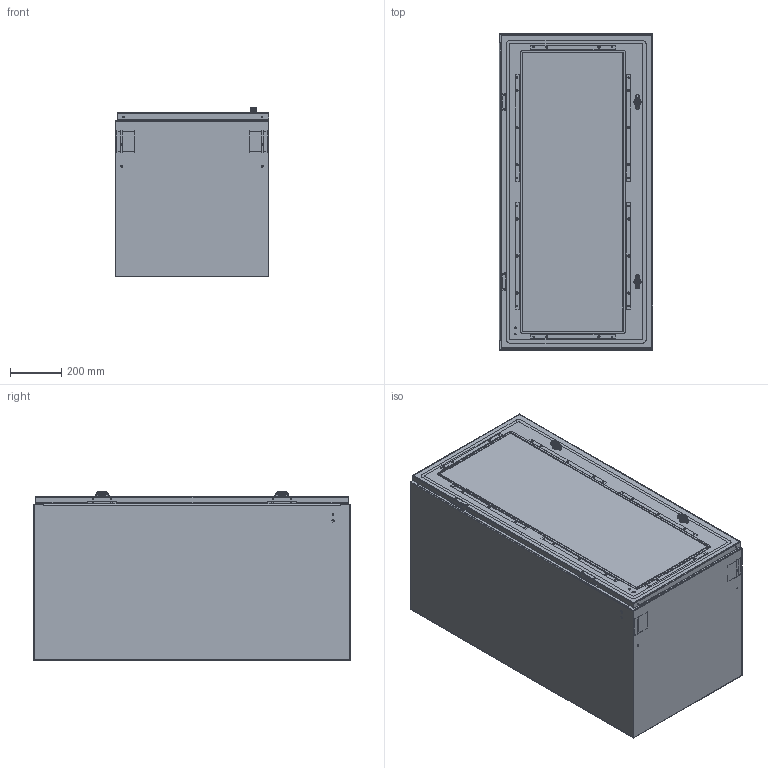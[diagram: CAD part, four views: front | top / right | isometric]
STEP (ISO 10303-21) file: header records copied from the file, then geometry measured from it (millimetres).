
FILE_DESCRIPTION (( 'STEP AP203' ), '1' );
FILE_NAME ('ptrw482424g2.STEP', '2011-10-03T18:52:57', ( 'Hoffman User' ), ( 'Hoffman Enclosures' ), 'SwSTEP 2.0', 'SolidWorks 2010', '' );
FILE_SCHEMA (( 'CONFIG_CONTROL_DESIGN' ));
Products named in the file (28): ptrw482424g2; 89078400; 89076564; 89072945; 89071699_Installed Config; 89074728_89060267; 89074726_Compressed wdw gasket; 89074724_89060269; 60127101_60127101; 60100041_60100041; 87931527_87931527; 87931368_SLEEVE; 99401225; 89074727; 89074725_Compressed; 89071927_FOR 16GA; 99407418; 87794349_87794349; 87556213; 87556214; 87790199; 60127214_601272214; 87790201_87790201; 60127135_Installed postion; 60127199_60127199; 56906712_56906712; 89060606_89060606; 89072125_87931339
Assembly tree (69 placements, depth 5):
  ptrw482424g2
    60127214_601272214  x2
      60127135_Installed postion
      60127199_60127199
      56906712_56906712
      87790201_87790201
    87790199  x2
    89078400
      60100041_60100041
        87931368_SLEEVE
        87931527_87931527
      99401225  x8
      89072945  x2
      89071699_Installed Config  x6
      89076564
    89060606_89060606  x2
    89072125_87931339  x2
    89074728_89060267
      89071927_FOR 16GA  x2
      89074726_Compressed wdw gasket
        89074725_Compressed
        60100041_60100041
          87931368_SLEEVE
          87931527_87931527
        99401225  x16
        89074727
        89074724_89060269
        60127101_60127101  x2
      99407418  x2
      87794349_87794349
      87556214  x2
      87556213  x4
Bounding box: 600 x 1233 x 659.17 mm (x, y, z)
Volume: 9715181.2 mm3; surface area: 8798219.2 mm2
Topology: 67 solids, 87 shells, 4198 faces, 10535 edges, 6557 vertices
Faces by surface type: plane 1869, cylinder 1515, bspline 450, cone 216, torus 136, sphere 12
Entity records: 102332 total; most frequent: CARTESIAN_POINT 49645, ORIENTED_EDGE 10318, DIRECTION 9738, EDGE_CURVE 5159, AXIS2_PLACEMENT_3D 3506, VERTEX_POINT 3228, LINE 2726, VECTOR 2726
